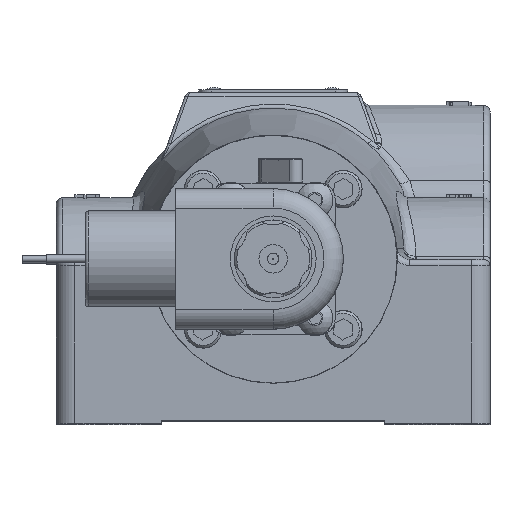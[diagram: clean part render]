
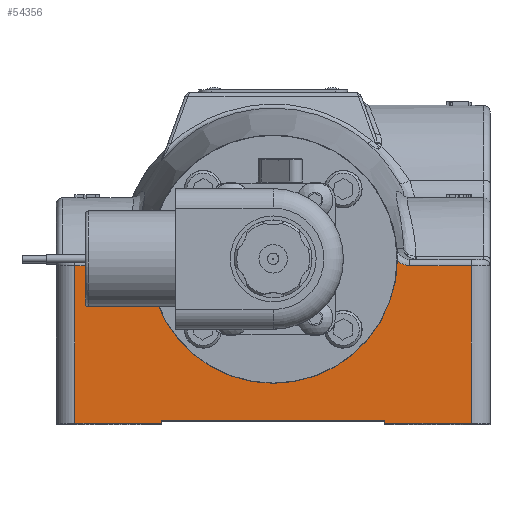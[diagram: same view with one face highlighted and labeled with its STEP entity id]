
A CAD part, top view. The second image highlights one B-rep face of the part: STEP entity #54356.
In plain terms, the highlighted planar face has unit normal (0, 0, 1).
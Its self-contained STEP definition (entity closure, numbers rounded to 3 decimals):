
#1498=B_SPLINE_CURVE_WITH_KNOTS('',3,(#98033,#98034,#98035,#98036,#98037),
 .UNSPECIFIED.,.F.,.F.,(4,1,4),(0.,0.291,0.347),
 .UNSPECIFIED.);
#1506=B_SPLINE_CURVE_WITH_KNOTS('',3,(#98220,#98221,#98222,#98223),
 .UNSPECIFIED.,.F.,.F.,(4,4),(0.356,0.703),
 .UNSPECIFIED.);
#3669=PLANE('',#59495);
#6308=FACE_OUTER_BOUND('',#9744,.T.);
#9744=EDGE_LOOP('',(#44104,#44105,#44106,#44107,#44108,#44109,#44110,#44111,
#44112,#44113,#44114,#44115));
#12868=CIRCLE('',#59366,3.178);
#15944=LINE('',#96656,#19251);
#16010=LINE('',#97799,#19317);
#16015=LINE('',#97812,#19322);
#16018=LINE('',#97816,#19325);
#16019=LINE('',#97818,#19326);
#16031=LINE('',#97870,#19338);
#16037=LINE('',#97927,#19344);
#16039=LINE('',#98101,#19346);
#16047=LINE('',#98347,#19354);
#19251=VECTOR('',#71107,1.);
#19317=VECTOR('',#71359,1.);
#19322=VECTOR('',#71372,1.);
#19325=VECTOR('',#71377,1.);
#19326=VECTOR('',#71380,1.);
#19338=VECTOR('',#71420,1.);
#19344=VECTOR('',#71498,1.);
#19346=VECTOR('',#71506,1.);
#19354=VECTOR('',#71602,1.);
#23460=VERTEX_POINT('',#96640);
#23466=VERTEX_POINT('',#96654);
#23523=VERTEX_POINT('',#97796);
#23524=VERTEX_POINT('',#97798);
#23526=VERTEX_POINT('',#97808);
#23528=VERTEX_POINT('',#97811);
#23545=VERTEX_POINT('',#97869);
#23559=VERTEX_POINT('',#97923);
#23563=VERTEX_POINT('',#98005);
#23568=VERTEX_POINT('',#98094);
#23571=VERTEX_POINT('',#98099);
#23594=VERTEX_POINT('',#98215);
#30095=EDGE_CURVE('',#23460,#23466,#15944,.T.);
#30220=EDGE_CURVE('',#23524,#23523,#16010,.T.);
#30226=EDGE_CURVE('',#23528,#23526,#16015,.T.);
#30229=EDGE_CURVE('',#23466,#23524,#16018,.T.);
#30230=EDGE_CURVE('',#23523,#23528,#16019,.T.);
#30252=EDGE_CURVE('',#23460,#23545,#16031,.T.);
#30281=EDGE_CURVE('',#23545,#23559,#16037,.T.);
#30286=EDGE_CURVE('',#23559,#23563,#1498,.T.);
#30295=EDGE_CURVE('',#23571,#23568,#16039,.T.);
#30332=EDGE_CURVE('',#23594,#23571,#1506,.T.);
#30344=EDGE_CURVE('',#23568,#23526,#16047,.T.);
#30405=EDGE_CURVE('',#23563,#23594,#12868,.T.);
#44104=ORIENTED_EDGE('',*,*,#30226,.T.);
#44105=ORIENTED_EDGE('',*,*,#30344,.F.);
#44106=ORIENTED_EDGE('',*,*,#30295,.F.);
#44107=ORIENTED_EDGE('',*,*,#30332,.F.);
#44108=ORIENTED_EDGE('',*,*,#30405,.F.);
#44109=ORIENTED_EDGE('',*,*,#30286,.F.);
#44110=ORIENTED_EDGE('',*,*,#30281,.F.);
#44111=ORIENTED_EDGE('',*,*,#30252,.F.);
#44112=ORIENTED_EDGE('',*,*,#30095,.T.);
#44113=ORIENTED_EDGE('',*,*,#30229,.T.);
#44114=ORIENTED_EDGE('',*,*,#30220,.T.);
#44115=ORIENTED_EDGE('',*,*,#30230,.T.);
#54356=ADVANCED_FACE('',(#6308),#3669,.T.);
#59366=AXIS2_PLACEMENT_3D('',#98983,#71676,#71677);
#59495=AXIS2_PLACEMENT_3D('',#113738,#72146,#72147);
#71107=DIRECTION('',(1.,0.,0.));
#71359=DIRECTION('',(1.,0.,0.));
#71372=DIRECTION('',(1.,0.,0.));
#71377=DIRECTION('',(0.,1.,0.));
#71380=DIRECTION('',(0.,-1.,0.));
#71420=DIRECTION('',(0.,1.,0.));
#71498=DIRECTION('',(1.,0.,0.));
#71506=DIRECTION('',(1.,0.,0.));
#71602=DIRECTION('',(0.,-1.,0.));
#71676=DIRECTION('center_axis',(0.,0.,1.));
#71677=DIRECTION('ref_axis',(-1.,0.,0.));
#72146=DIRECTION('center_axis',(0.,0.,1.));
#72147=DIRECTION('ref_axis',(1.,0.,0.));
#96640=CARTESIAN_POINT('',(-5.08,-4.207,8.652));
#96654=CARTESIAN_POINT('',(-2.858,-4.207,8.652));
#96656=CARTESIAN_POINT('',(0.,-4.207,8.652));
#97796=CARTESIAN_POINT('',(2.858,-4.128,8.652));
#97798=CARTESIAN_POINT('',(-2.858,-4.128,8.652));
#97799=CARTESIAN_POINT('',(0.,-4.128,8.652));
#97808=CARTESIAN_POINT('',(5.08,-4.207,8.652));
#97811=CARTESIAN_POINT('',(2.858,-4.207,8.652));
#97812=CARTESIAN_POINT('',(0.,-4.207,8.652));
#97816=CARTESIAN_POINT('',(-2.858,-4.247,8.652));
#97818=CARTESIAN_POINT('',(2.858,-4.247,8.652));
#97869=CARTESIAN_POINT('',(-5.08,-0.159,8.652));
#97870=CARTESIAN_POINT('',(-5.08,-3.215,8.652));
#97923=CARTESIAN_POINT('',(-3.497,-0.159,8.652));
#97927=CARTESIAN_POINT('',(0.,-0.159,8.652));
#98005=CARTESIAN_POINT('',(-3.177,-0.037,8.652));
#98033=CARTESIAN_POINT('Ctrl Pts',(-3.497,-0.159,
8.652));
#98034=CARTESIAN_POINT('Ctrl Pts',(-3.4,-0.159,
8.652));
#98035=CARTESIAN_POINT('Ctrl Pts',(-3.283,-0.122,
8.652));
#98036=CARTESIAN_POINT('Ctrl Pts',(-3.192,-0.05,
8.652));
#98037=CARTESIAN_POINT('Ctrl Pts',(-3.178,-0.037,
8.652));
#98094=CARTESIAN_POINT('',(5.08,-0.159,8.652));
#98099=CARTESIAN_POINT('',(3.497,-0.159,8.652));
#98101=CARTESIAN_POINT('',(0.,-0.159,8.652));
#98215=CARTESIAN_POINT('',(3.177,-0.037,8.652));
#98220=CARTESIAN_POINT('Ctrl Pts',(3.178,-0.037,
8.652));
#98221=CARTESIAN_POINT('Ctrl Pts',(3.265,-0.114,
8.652));
#98222=CARTESIAN_POINT('Ctrl Pts',(3.381,-0.159,
8.652));
#98223=CARTESIAN_POINT('Ctrl Pts',(3.497,-0.159,
8.652));
#98347=CARTESIAN_POINT('',(5.08,-3.215,8.652));
#98983=CARTESIAN_POINT('Origin',(0.,0.,8.652));
#113738=CARTESIAN_POINT('Origin',(0.,-4.286,8.652));
